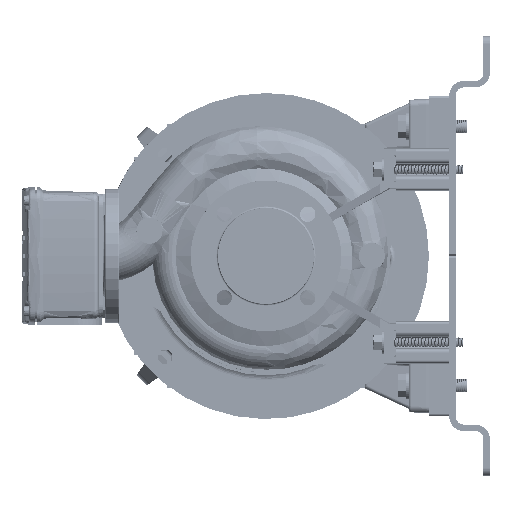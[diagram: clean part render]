
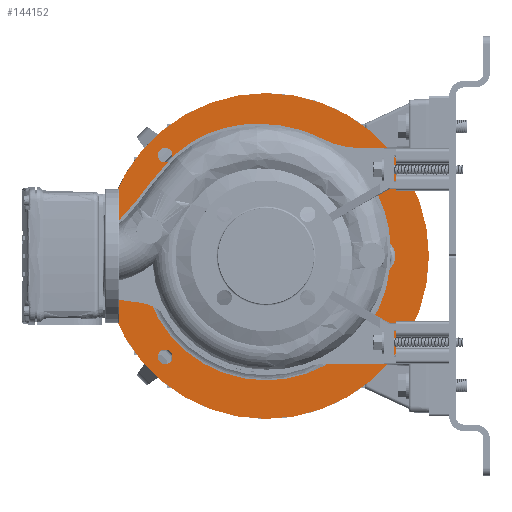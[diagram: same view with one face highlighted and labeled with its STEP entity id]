
A CAD part, left-side view. The second image highlights one B-rep face of the part: STEP entity #144152.
In plain terms, the highlighted planar face has unit normal (-1, 0, 0).
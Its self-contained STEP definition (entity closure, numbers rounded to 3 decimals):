
#834 = DIRECTION ( 'NONE',  ( 1., 0., 0. ) ) ;
#6242 = AXIS2_PLACEMENT_3D ( 'NONE', #190585, #187533, #139767 ) ;
#6919 = EDGE_LOOP ( 'NONE', ( #239300, #175415 ) ) ;
#8266 = CARTESIAN_POINT ( 'NONE',  ( 438.01, 388.817, 1182.321 ) ) ;
#8460 = DIRECTION ( 'NONE',  ( 0., 0., -1. ) ) ;
#11159 = FACE_OUTER_BOUND ( 'NONE', #6919, .T. ) ;
#15908 = AXIS2_PLACEMENT_3D ( 'NONE', #291794, #199460, #121448 ) ;
#16361 = AXIS2_PLACEMENT_3D ( 'NONE', #239801, #25853, #195094 ) ;
#19235 = ORIENTED_EDGE ( 'NONE', *, *, #265135, .T. ) ;
#23710 = CARTESIAN_POINT ( 'NONE',  ( 438.01, 636.305, 925.834 ) ) ;
#25853 = DIRECTION ( 'NONE',  ( 1., 0., 0. ) ) ;
#26032 = CIRCLE ( 'NONE', #16361, 200. ) ;
#26310 = EDGE_CURVE ( 'NONE', #214357, #245379, #42194, .T. ) ;
#27419 = CIRCLE ( 'NONE', #199476, 152.679 ) ;
#29309 = CARTESIAN_POINT ( 'NONE',  ( 438.01, 636.305, 1173.321 ) ) ;
#32465 = EDGE_CURVE ( 'NONE', #262921, #259993, #202402, .T. ) ;
#42194 = CIRCLE ( 'NONE', #188385, 9. ) ;
#43752 = DIRECTION ( 'NONE',  ( 1., 0., 0. ) ) ;
#45317 = CIRCLE ( 'NONE', #15908, 9. ) ;
#46608 = AXIS2_PLACEMENT_3D ( 'NONE', #209963, #182338, #160747 ) ;
#48389 = ORIENTED_EDGE ( 'NONE', *, *, #221921, .T. ) ;
#50876 = AXIS2_PLACEMENT_3D ( 'NONE', #80795, #263996, #8460 ) ;
#50984 = DIRECTION ( 'NONE',  ( 0., 0., -1. ) ) ;
#51437 = CIRCLE ( 'NONE', #105637, 9. ) ;
#53171 = CARTESIAN_POINT ( 'NONE',  ( 438.01, 388.817, 925.834 ) ) ;
#58970 = VERTEX_POINT ( 'NONE', #238103 ) ;
#63710 = CARTESIAN_POINT ( 'NONE',  ( 438.01, 636.305, 1182.321 ) ) ;
#64373 = DIRECTION ( 'NONE',  ( 0., 0., -1. ) ) ;
#67990 = DIRECTION ( 'NONE',  ( 1., 0., 0. ) ) ;
#69621 = ORIENTED_EDGE ( 'NONE', *, *, #185471, .T. ) ;
#69869 = VERTEX_POINT ( 'NONE', #219159 ) ;
#72138 = EDGE_CURVE ( 'NONE', #245379, #214357, #51437, .T. ) ;
#72886 = AXIS2_PLACEMENT_3D ( 'NONE', #195222, #67990, #166462 ) ;
#73316 = EDGE_CURVE ( 'NONE', #69869, #115668, #115985, .T. ) ;
#74056 = DIRECTION ( 'NONE',  ( 1., 0., 0. ) ) ;
#74899 = VERTEX_POINT ( 'NONE', #63710 ) ;
#77017 = DIRECTION ( 'NONE',  ( 1., 0., 0. ) ) ;
#78149 = DIRECTION ( 'NONE',  ( 0., 0., 1. ) ) ;
#78553 = ORIENTED_EDGE ( 'NONE', *, *, #32465, .T. ) ;
#79678 = DIRECTION ( 'NONE',  ( 1., 0., 0. ) ) ;
#80004 = CIRCLE ( 'NONE', #99763, 9. ) ;
#80467 = FACE_BOUND ( 'NONE', #88329, .T. ) ;
#80548 = EDGE_LOOP ( 'NONE', ( #69621, #148098 ) ) ;
#80795 = CARTESIAN_POINT ( 'NONE',  ( 438.01, 512.561, 1049.577 ) ) ;
#81179 = CARTESIAN_POINT ( 'NONE',  ( 438.01, 388.817, 1173.321 ) ) ;
#83253 = CARTESIAN_POINT ( 'NONE',  ( 438.01, 360.769, 1033.139 ) ) ;
#84932 = EDGE_CURVE ( 'NONE', #260912, #199794, #232342, .T. ) ;
#85320 = EDGE_CURVE ( 'NONE', #165184, #226557, #119619, .T. ) ;
#88329 = EDGE_LOOP ( 'NONE', ( #48389, #295965 ) ) ;
#94263 = AXIS2_PLACEMENT_3D ( 'NONE', #176679, #100316, #123432 ) ;
#96306 = DIRECTION ( 'NONE',  ( 0., 0., 1. ) ) ;
#98618 = EDGE_LOOP ( 'NONE', ( #158020, #78553 ) ) ;
#99763 = AXIS2_PLACEMENT_3D ( 'NONE', #23710, #43752, #166855 ) ;
#100316 = DIRECTION ( 'NONE',  ( 1., 0., 0. ) ) ;
#104548 = CARTESIAN_POINT ( 'NONE',  ( 438.01, 388.817, 925.834 ) ) ;
#105637 = AXIS2_PLACEMENT_3D ( 'NONE', #104548, #150721, #198476 ) ;
#112530 = AXIS2_PLACEMENT_3D ( 'NONE', #81179, #79678, #78149 ) ;
#113311 = ORIENTED_EDGE ( 'NONE', *, *, #72138, .T. ) ;
#115668 = VERTEX_POINT ( 'NONE', #141257 ) ;
#115985 = CIRCLE ( 'NONE', #253731, 200. ) ;
#119619 = CIRCLE ( 'NONE', #50876, 152.679 ) ;
#121448 = DIRECTION ( 'NONE',  ( 0., 0., 1. ) ) ;
#123432 = DIRECTION ( 'NONE',  ( 0., 0., 1. ) ) ;
#123983 = CARTESIAN_POINT ( 'NONE',  ( 438.01, 388.817, 934.834 ) ) ;
#131297 = EDGE_LOOP ( 'NONE', ( #280116, #113311 ) ) ;
#134182 = DIRECTION ( 'NONE',  ( 0., 0., 1. ) ) ;
#139767 = DIRECTION ( 'NONE',  ( 0., 0., 1. ) ) ;
#141257 = CARTESIAN_POINT ( 'NONE',  ( 438.01, 512.561, 849.577 ) ) ;
#144152 = ADVANCED_FACE ( 'NONE', ( #11159, #249708, #223579, #80467, #226600, #152757 ), #178915, .T. ) ;
#144829 = EDGE_CURVE ( 'NONE', #259993, #262921, #80004, .T. ) ;
#148098 = ORIENTED_EDGE ( 'NONE', *, *, #261799, .T. ) ;
#148211 = CARTESIAN_POINT ( 'NONE',  ( 438.01, 512.561, 896.898 ) ) ;
#150258 = EDGE_CURVE ( 'NONE', #199794, #165184, #27419, .T. ) ;
#150721 = DIRECTION ( 'NONE',  ( 1., 0., 0. ) ) ;
#152757 = FACE_BOUND ( 'NONE', #224336, .T. ) ;
#153143 = AXIS2_PLACEMENT_3D ( 'NONE', #29309, #77017, #264784 ) ;
#158020 = ORIENTED_EDGE ( 'NONE', *, *, #144829, .T. ) ;
#158197 = CARTESIAN_POINT ( 'NONE',  ( 438.01, 512.561, 1202.257 ) ) ;
#158404 = AXIS2_PLACEMENT_3D ( 'NONE', #272760, #246696, #134182 ) ;
#160747 = DIRECTION ( 'NONE',  ( 0., 0., -1. ) ) ;
#165184 = VERTEX_POINT ( 'NONE', #148211 ) ;
#165818 = ORIENTED_EDGE ( 'NONE', *, *, #84932, .T. ) ;
#166462 = DIRECTION ( 'NONE',  ( 0., 0., 1. ) ) ;
#166855 = DIRECTION ( 'NONE',  ( 0., 0., 1. ) ) ;
#175415 = ORIENTED_EDGE ( 'NONE', *, *, #73316, .F. ) ;
#176679 = CARTESIAN_POINT ( 'NONE',  ( 438.01, 636.305, 925.834 ) ) ;
#178915 = PLANE ( 'NONE',  #158404 ) ;
#179298 = ORIENTED_EDGE ( 'NONE', *, *, #85320, .T. ) ;
#180334 = EDGE_CURVE ( 'NONE', #187515, #58970, #245326, .T. ) ;
#181220 = CIRCLE ( 'NONE', #72886, 9. ) ;
#182338 = DIRECTION ( 'NONE',  ( 1., 0., 0. ) ) ;
#185471 = EDGE_CURVE ( 'NONE', #258882, #74899, #231797, .T. ) ;
#187515 = VERTEX_POINT ( 'NONE', #8266 ) ;
#187533 = DIRECTION ( 'NONE',  ( 1., 0., 0. ) ) ;
#188385 = AXIS2_PLACEMENT_3D ( 'NONE', #53171, #834, #96306 ) ;
#190585 = CARTESIAN_POINT ( 'NONE',  ( 438.01, 377.563, 1049.577 ) ) ;
#195094 = DIRECTION ( 'NONE',  ( 0., 0., -1. ) ) ;
#195222 = CARTESIAN_POINT ( 'NONE',  ( 438.01, 388.817, 1173.321 ) ) ;
#198476 = DIRECTION ( 'NONE',  ( 0., 0., 1. ) ) ;
#198932 = CIRCLE ( 'NONE', #46608, 152.679 ) ;
#199460 = DIRECTION ( 'NONE',  ( 1., 0., 0. ) ) ;
#199476 = AXIS2_PLACEMENT_3D ( 'NONE', #258759, #74056, #50984 ) ;
#199794 = VERTEX_POINT ( 'NONE', #83253 ) ;
#202402 = CIRCLE ( 'NONE', #94263, 9. ) ;
#209963 = CARTESIAN_POINT ( 'NONE',  ( 438.01, 512.561, 1049.577 ) ) ;
#214357 = VERTEX_POINT ( 'NONE', #251163 ) ;
#219159 = CARTESIAN_POINT ( 'NONE',  ( 438.01, 512.561, 1249.577 ) ) ;
#221921 = EDGE_CURVE ( 'NONE', #58970, #187515, #181220, .T. ) ;
#223579 = FACE_BOUND ( 'NONE', #80548, .T. ) ;
#224336 = EDGE_LOOP ( 'NONE', ( #290500, #179298, #19235, #165818 ) ) ;
#224552 = CARTESIAN_POINT ( 'NONE',  ( 438.01, 512.561, 1049.577 ) ) ;
#226557 = VERTEX_POINT ( 'NONE', #158197 ) ;
#226600 = FACE_BOUND ( 'NONE', #131297, .T. ) ;
#227537 = DIRECTION ( 'NONE',  ( 1., 0., 0. ) ) ;
#228083 = CARTESIAN_POINT ( 'NONE',  ( 438.01, 636.305, 1164.321 ) ) ;
#231797 = CIRCLE ( 'NONE', #153143, 9. ) ;
#232342 = CIRCLE ( 'NONE', #6242, 23.5 ) ;
#238103 = CARTESIAN_POINT ( 'NONE',  ( 438.01, 388.817, 1164.321 ) ) ;
#238847 = EDGE_CURVE ( 'NONE', #115668, #69869, #26032, .T. ) ;
#239300 = ORIENTED_EDGE ( 'NONE', *, *, #238847, .F. ) ;
#239512 = CARTESIAN_POINT ( 'NONE',  ( 438.01, 636.305, 916.834 ) ) ;
#239801 = CARTESIAN_POINT ( 'NONE',  ( 438.01, 512.561, 1049.577 ) ) ;
#244484 = CARTESIAN_POINT ( 'NONE',  ( 438.01, 360.769, 1066.016 ) ) ;
#245326 = CIRCLE ( 'NONE', #112530, 9. ) ;
#245379 = VERTEX_POINT ( 'NONE', #123983 ) ;
#246696 = DIRECTION ( 'NONE',  ( -1., 0., 0. ) ) ;
#249708 = FACE_BOUND ( 'NONE', #98618, .T. ) ;
#251163 = CARTESIAN_POINT ( 'NONE',  ( 438.01, 388.817, 916.834 ) ) ;
#253731 = AXIS2_PLACEMENT_3D ( 'NONE', #224552, #227537, #64373 ) ;
#258759 = CARTESIAN_POINT ( 'NONE',  ( 438.01, 512.561, 1049.577 ) ) ;
#258882 = VERTEX_POINT ( 'NONE', #228083 ) ;
#259993 = VERTEX_POINT ( 'NONE', #239512 ) ;
#260130 = CARTESIAN_POINT ( 'NONE',  ( 438.01, 636.305, 934.834 ) ) ;
#260912 = VERTEX_POINT ( 'NONE', #244484 ) ;
#261799 = EDGE_CURVE ( 'NONE', #74899, #258882, #45317, .T. ) ;
#262921 = VERTEX_POINT ( 'NONE', #260130 ) ;
#263996 = DIRECTION ( 'NONE',  ( 1., 0., 0. ) ) ;
#264784 = DIRECTION ( 'NONE',  ( 0., 0., 1. ) ) ;
#265135 = EDGE_CURVE ( 'NONE', #226557, #260912, #198932, .T. ) ;
#272760 = CARTESIAN_POINT ( 'NONE',  ( 438.01, 712.561, 1049.577 ) ) ;
#280116 = ORIENTED_EDGE ( 'NONE', *, *, #26310, .T. ) ;
#290500 = ORIENTED_EDGE ( 'NONE', *, *, #150258, .T. ) ;
#291794 = CARTESIAN_POINT ( 'NONE',  ( 438.01, 636.305, 1173.321 ) ) ;
#295965 = ORIENTED_EDGE ( 'NONE', *, *, #180334, .T. ) ;
